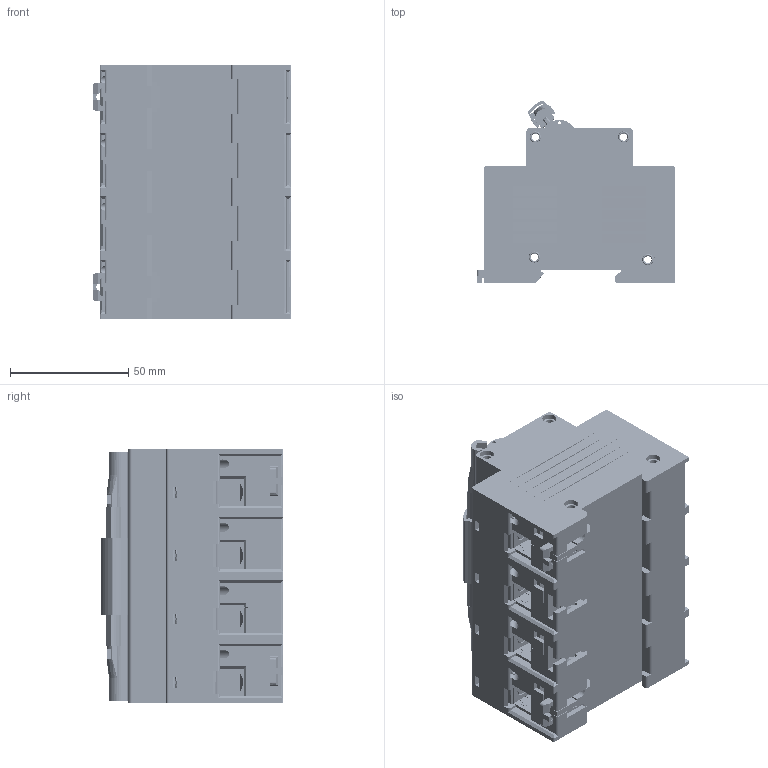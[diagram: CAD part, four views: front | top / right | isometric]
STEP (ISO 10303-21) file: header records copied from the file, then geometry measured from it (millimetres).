
FILE_DESCRIPTION (( 'STEP AP203' ), '1' );
FILE_NAME ('2YJ.292.2303.1-8 BKH-b塑壳断路器（4P）.STEP', '2017-09-28T09:06:05', ( 'User' ), ( 'Company' ), 'SwSTEP 2.0', 'SolidWorks 2014', '' );
FILE_SCHEMA (( 'CONFIG_CONTROL_DESIGN' ));
Length unit declared in the file: millimetre
Products named in the file (19): 8YJ.0315.2301 盖（多极）; 8YJ.288.2301 忒梟囀粟銅; 8YJ.024.2301 底座（多极）; 忒梟; 8YJ.960.2300.1-4 穩隊_4P; 5YJ.574.2300.1-2 諉盄釱_萵掛; 忒梟杶ㄗ4Pㄘ; 硌尨璃; 8YJ.024.2300 等憤菁釱; 忒梟杶蜇璃; 8YJ.315.2300 等憤裔; 諉盄遺; 2YJ.292.2303.1-8 BKH-b塑壳断路器（4P）; 弝敦; 蹟隊; 覃誹蹟隊; 假蚾縐; 忒梟價釱
Assembly tree (44 placements, depth 3):
  2YJ.292.2303.1-8 BKH-b塑壳断路器（4P）
    8YJ.024.2300 等憤菁釱
    諉盄遺  x4
    蹟隊  x4
    忒梟  x4
      忒梟
      忒梟價釱
      8YJ.288.2301 忒梟囀粟銅
    5YJ.574.2300.1-2 諉盄釱_萵掛  x4
      諉盄遺
      蹟隊
    硌尨璃
    8YJ.315.2300 等憤裔
    弝敦  x4
    覃誹蹟隊  x2
    假蚾縐  x2
    8YJ.0315.2301 盖（多极）  x3
    8YJ.024.2301 底座（多极）  x3
    8YJ.960.2300.1-4 穩隊_4P  x4
    忒梟杶ㄗ4Pㄘ
    忒梟杶蜇璃
Bounding box: 84 x 77.22 x 107.2 mm (x, y, z)
Volume: 182352.7 mm3; surface area: 235247.7 mm2
Topology: 51 solids, 51 shells, 6977 faces, 18915 edges, 12198 vertices
Faces by surface type: plane 4746, cylinder 1791, bspline 176, cone 162, torus 98, sphere 4
Entity records: 92355 total; most frequent: CARTESIAN_POINT 18883, ORIENTED_EDGE 14962, DIRECTION 14528, EDGE_CURVE 7481, VECTOR 5796, LINE 5796, VERTEX_POINT 4875, AXIS2_PLACEMENT_3D 4366
